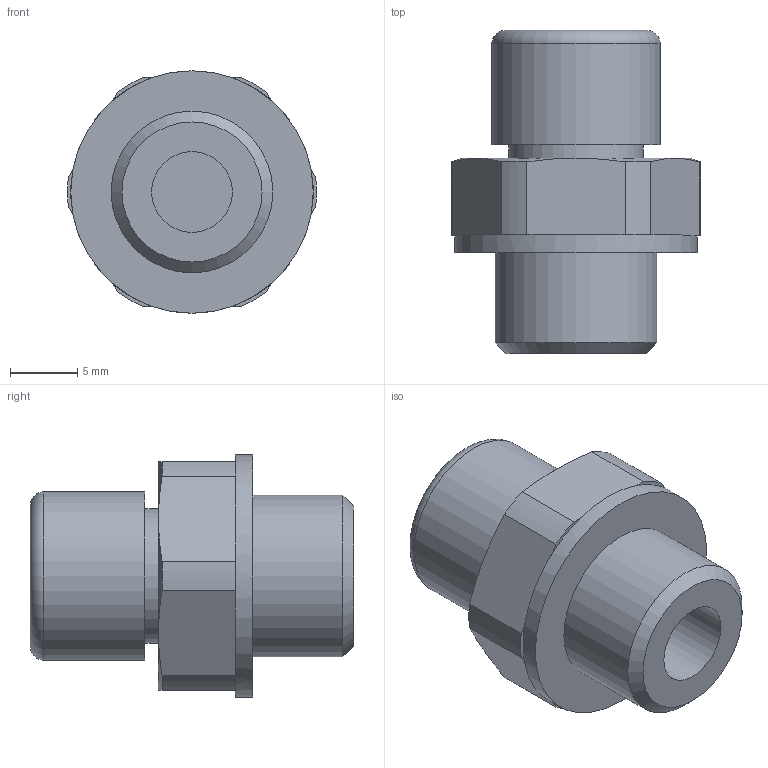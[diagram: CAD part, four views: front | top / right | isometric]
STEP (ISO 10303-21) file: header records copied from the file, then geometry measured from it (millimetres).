
FILE_DESCRIPTION( ( 'STEP AP203' ), '1' );
FILE_NAME( 'C:/Temp/Ganter_Step_05_03_2020/data/3_5/gn883/Breather valve GN 883-M12x1,5-160-B-MS.stp', '2020-03-12T13:42:48', ( 'License CC BY-ND 4.0' ), ( 'CADENAS' ), ' ', 'PARTsolutions', ' ' );
FILE_SCHEMA( ( 'CONFIG_CONTROL_DESIGN' ) );
Length unit declared in the file: millimetre
Products named in the file (1): _Breather valve GN 883-M12x1,5-160-B-MS
Bounding box: 18.49 x 24 x 18 mm (x, y, z)
Volume: 3359.8 mm3; surface area: 1826.2 mm2
Topology: 1 solids, 1 shells, 43 faces, 91 edges, 54 vertices
Faces by surface type: plane 24, cylinder 11, cone 7, torus 1
Full cylindrical faces by diameter (mm): 6 x1, 10 x1, 12 x1, 12.5 x1, 18 x1
Entity records: 1162 total; most frequent: CARTESIAN_POINT 220, DIRECTION 200, ORIENTED_EDGE 166, AXIS2_PLACEMENT_3D 85, EDGE_CURVE 83, EDGE_LOOP 54, VERTEX_POINT 53, FACE_OUTER_BOUND 49
